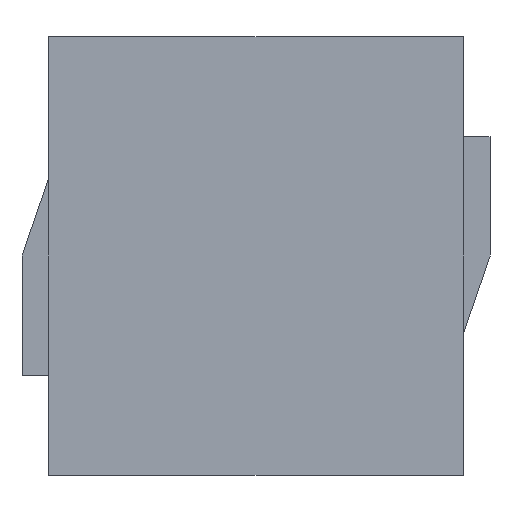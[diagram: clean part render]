
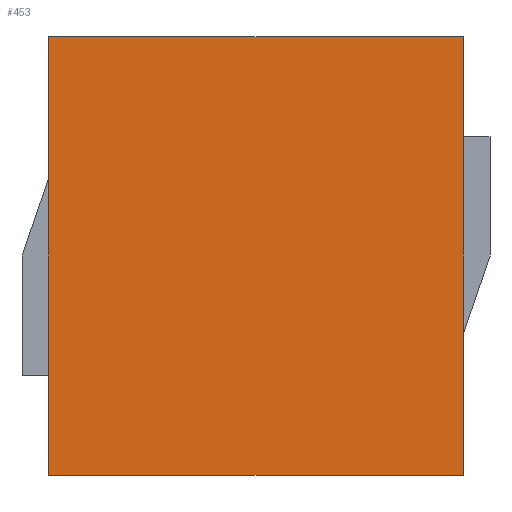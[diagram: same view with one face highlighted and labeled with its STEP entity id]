
A CAD part, front view. The second image highlights one B-rep face of the part: STEP entity #453.
In plain terms, the highlighted planar face has unit normal (0, -1, 0).
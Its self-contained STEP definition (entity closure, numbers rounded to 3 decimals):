
#79=DIRECTION('',(0.,0.,1.));
#80=VECTOR('',#79,18.);
#81=CARTESIAN_POINT('',(8.5,-20.,-9.));
#82=LINE('',#81,#80);
#83=DIRECTION('',(1.,0.,0.));
#84=VECTOR('',#83,17.);
#85=CARTESIAN_POINT('',(-8.5,-20.,-9.));
#86=LINE('',#85,#84);
#87=DIRECTION('',(0.,0.,-1.));
#88=VECTOR('',#87,18.);
#89=CARTESIAN_POINT('',(-8.5,-20.,9.));
#90=LINE('',#89,#88);
#91=DIRECTION('',(-1.,0.,0.));
#92=VECTOR('',#91,17.);
#93=CARTESIAN_POINT('',(8.5,-20.,9.));
#94=LINE('',#93,#92);
#301=CARTESIAN_POINT('',(8.5,-20.,-9.));
#302=CARTESIAN_POINT('',(8.5,-20.,9.));
#303=VERTEX_POINT('',#301);
#304=VERTEX_POINT('',#302);
#305=CARTESIAN_POINT('',(-8.5,-20.,9.));
#306=VERTEX_POINT('',#305);
#307=CARTESIAN_POINT('',(-8.5,-20.,-9.));
#308=VERTEX_POINT('',#307);
#442=CARTESIAN_POINT('',(0.,-20.,0.));
#443=DIRECTION('',(0.,-1.,0.));
#444=DIRECTION('',(-1.,0.,0.));
#445=AXIS2_PLACEMENT_3D('',#442,#443,#444);
#446=PLANE('',#445);
#447=ORIENTED_EDGE('',*,*,#382,.F.);
#448=ORIENTED_EDGE('',*,*,#403,.F.);
#449=ORIENTED_EDGE('',*,*,#417,.F.);
#450=ORIENTED_EDGE('',*,*,#436,.F.);
#451=EDGE_LOOP('',(#447,#448,#449,#450));
#452=FACE_OUTER_BOUND('',#451,.F.);
#453=ADVANCED_FACE('',(#452),#446,.T.);
#382=EDGE_CURVE('',#303,#304,#82,.T.);
#403=EDGE_CURVE('',#308,#303,#86,.T.);
#417=EDGE_CURVE('',#306,#308,#90,.T.);
#436=EDGE_CURVE('',#304,#306,#94,.T.);
